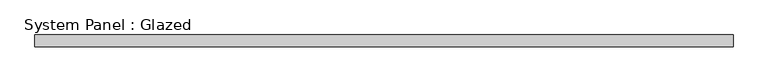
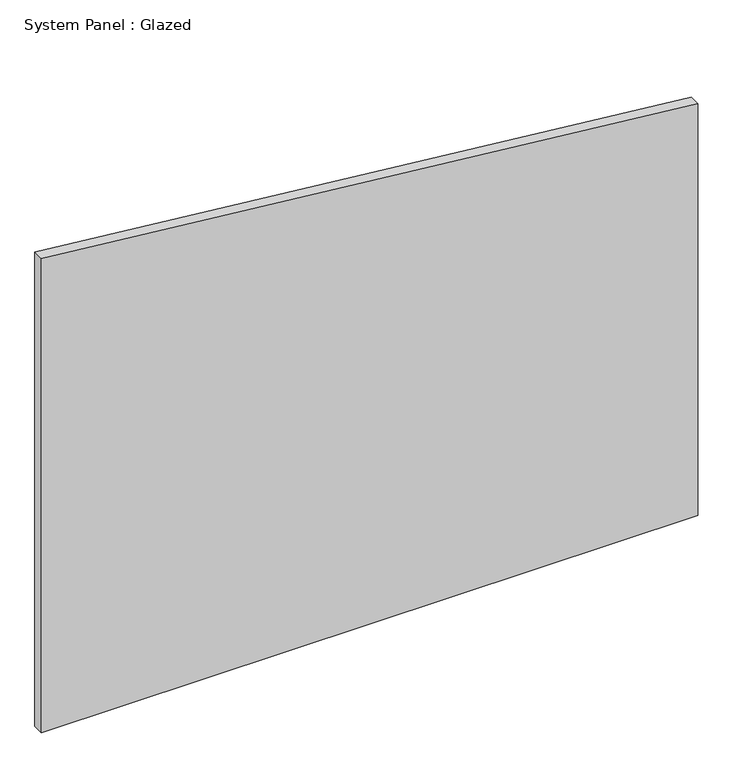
"""IFC4 building model written with IfcOpenShell, lengths in millimetres: plate geometry, System Panel : Glazed."""

from ifc_helpers import new_model, si_unit, frame, origin, place, context, project, spatial, polyline, outline, extrude, source, transform, mapped, element, save


def system_panel_glazed_415363e9(model_context):
    return source(origin(), model_context, "Body", "SweptSolid", [
        extrude(outline(polyline([(0.0, -735.8695652), (0.0, 735.8695652), (976.6069826, 735.8695652), (1124.5899613, -735.8695652), (0.0, -735.8695652)])), frame((0.0, 24.5, 0.0), z_axis=(0.0, 1.0, 0.0), x_axis=(0.0, 0.0, 1.0)), (0.0, 0.0, 1.0), 25.0),
    ])


if __name__ == "__main__":
    model = new_model("IFC4")
    model_context = context("Model", 3, world=origin())
    ifc_project = project(units=[si_unit("LENGTHUNIT", "METRE", prefix="MILLI")], contexts=[model_context])
    site = spatial("IfcSite", under=ifc_project)
    building = spatial("IfcBuilding", under=site)
    placement = place(None, origin())
    system_panel_glazed_shape = system_panel_glazed_415363e9(model_context)
    element("IfcPlate", 1, ObjectType="System Panel : Glazed", at=placement, inside=building, context=model_context, shape_type="MappedRepresentation", body=[
        mapped(system_panel_glazed_shape, transform((0.0, 0.0, 0.0), x_axis=(1.0, 0.0, 0.0), y_axis=(0.0, 1.0, 0.0), z_axis=(0.0, 0.0, 1.0))),
    ])
    save(model, "model.ifc")
